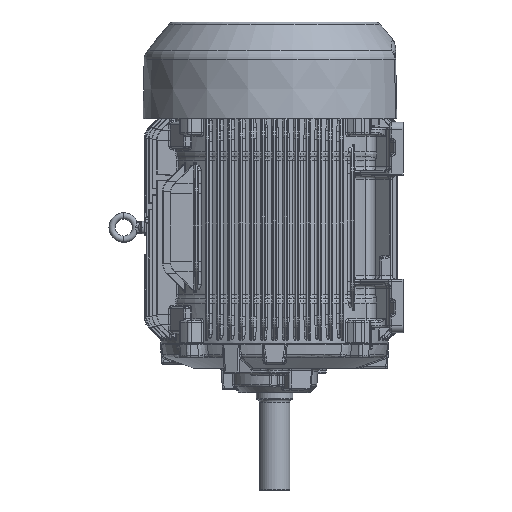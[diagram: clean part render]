
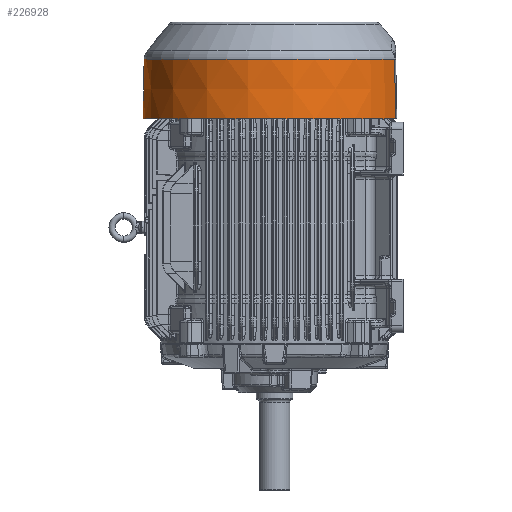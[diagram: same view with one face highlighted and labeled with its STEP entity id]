
A CAD part, left-side view. The second image highlights one B-rep face of the part: STEP entity #226928.
In plain terms, the highlighted conical face has half-angle 1 degrees and reference radius 233.124 mm.
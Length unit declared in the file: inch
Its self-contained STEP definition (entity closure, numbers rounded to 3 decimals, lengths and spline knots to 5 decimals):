
#221006=CARTESIAN_POINT('',(-3.60457,-8.48033,0.));
#221018=CARTESIAN_POINT('',(3.60457,-8.48033,0.));
#221024=CARTESIAN_POINT('',(-3.59136,-8.40669,
-4.17906));
#221025=CARTESIAN_POINT('',(-3.59246,-8.41281,
-3.83188));
#221026=CARTESIAN_POINT('',(-3.59463,-8.42493,
-3.14247));
#221027=CARTESIAN_POINT('',(-3.59779,-8.44253,
-2.14475));
#221028=CARTESIAN_POINT('',(-3.60104,-8.46061,
-1.11863));
#221029=CARTESIAN_POINT('',(-3.60337,-8.47363,
-0.37999));
#221030=CARTESIAN_POINT('',(-3.60457,-8.48033,0.));
#221032=CARTESIAN_POINT('',(0.,0.,-4.17906));
#221033=DIRECTION('',(0.,0.,-1.));
#221034=DIRECTION('',(-0.393,-0.92,0.));
#221035=AXIS2_PLACEMENT_3D('',#221032,#221033,#221034);
#221037=CARTESIAN_POINT('',(3.60457,-8.48033,0.));
#221038=CARTESIAN_POINT('',(3.60357,-8.47474,
-0.31672));
#221039=CARTESIAN_POINT('',(3.60153,-8.46334,
-0.96364));
#221040=CARTESIAN_POINT('',(3.59836,-8.4457,
-1.96446));
#221041=CARTESIAN_POINT('',(3.595,-8.427,
-3.02559));
#221042=CARTESIAN_POINT('',(3.59259,-8.41359,
-3.7864));
#221043=CARTESIAN_POINT('',(3.59135,-8.40667,
-4.17906));
#221045=CARTESIAN_POINT('',(0.,0.,0.));
#221046=DIRECTION('',(0.,0.,1.));
#221047=DIRECTION('',(0.391,-0.92,0.));
#221048=AXIS2_PLACEMENT_3D('',#221045,#221046,#221047);
#225257=VERTEX_POINT('',#221006);
#225260=VERTEX_POINT('',#221024);
#225267=CARTESIAN_POINT('',(3.59124,-8.40671,
-4.17906));
#225268=VERTEX_POINT('',#225267);
#225270=VERTEX_POINT('',#221018);
#226916=CARTESIAN_POINT('',(0.,0.,-2.08953));
#226917=DIRECTION('',(0.,0.,1.));
#226918=DIRECTION('',(0.,1.,0.));
#226919=AXIS2_PLACEMENT_3D('',#226916,#226917,#226918);
#226920=CONICAL_SURFACE('',#226919,9.17813,1.);
#226921=ORIENTED_EDGE('',*,*,#226897,.F.);
#226922=ORIENTED_EDGE('',*,*,#226743,.T.);
#226924=ORIENTED_EDGE('',*,*,#226923,.F.);
#226925=ORIENTED_EDGE('',*,*,#226908,.T.);
#226926=EDGE_LOOP('',(#226921,#226922,#226924,#226925));
#226927=FACE_OUTER_BOUND('',#226926,.F.);
#226928=ADVANCED_FACE('',(#226927),#226920,.T.);
#221031=B_SPLINE_CURVE_WITH_KNOTS('',3,(#221024,#221025,#221026,#221027,#221028,
#221029,#221030),.UNSPECIFIED.,.F.,.F.,(4,1,1,1,4),(0.,0.25,0.5,0.75,
1.),.UNSPECIFIED.);
#221036=CIRCLE('',#221035,9.14165);
#221044=B_SPLINE_CURVE_WITH_KNOTS('',3,(#221037,#221038,#221039,#221040,#221041,
#221042,#221043),.UNSPECIFIED.,.F.,.F.,(4,1,1,1,4),(0.,0.25,0.5,0.75,
1.),.UNSPECIFIED.);
#221049=CIRCLE('',#221048,9.2146);
#226743=EDGE_CURVE('',#225260,#225268,#221036,.T.);
#226897=EDGE_CURVE('',#225260,#225257,#221031,.T.);
#226908=EDGE_CURVE('',#225270,#225257,#221049,.T.);
#226923=EDGE_CURVE('',#225270,#225268,#221044,.T.);
